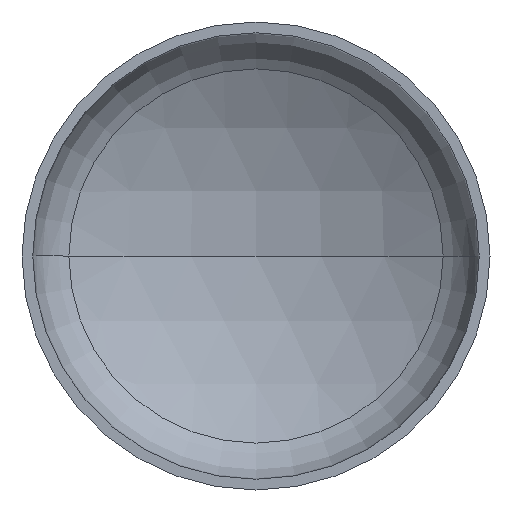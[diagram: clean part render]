
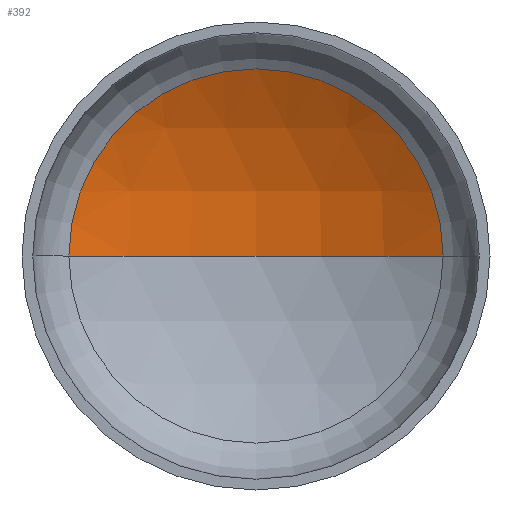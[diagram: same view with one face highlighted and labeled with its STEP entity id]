
A CAD part, front view. The second image highlights one B-rep face of the part: STEP entity #392.
In plain terms, the highlighted spherical face has radius 2720 mm.
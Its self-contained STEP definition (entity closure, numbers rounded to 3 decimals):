
#1 = AXIS2_PLACEMENT_3D ( 'NONE', #298, #70, #127 ) ;
#12 = AXIS2_PLACEMENT_3D ( 'NONE', #45, #286, #289 ) ;
#15 = AXIS2_PLACEMENT_3D ( 'NONE', #194, #360, #106 ) ;
#19 = AXIS2_PLACEMENT_3D ( 'NONE', #128, #124, #126 ) ;
#44 = EDGE_LOOP ( 'NONE', ( #190, #141, #82 ) ) ;
#45 = CARTESIAN_POINT ( 'NONE',  ( 0., -1781.214, 0. ) ) ;
#58 = SPHERICAL_SURFACE ( 'NONE', #1, 2720. ) ;
#70 = DIRECTION ( 'NONE',  ( 0., 0., -1. ) ) ;
#82 = ORIENTED_EDGE ( 'NONE', *, *, #349, .T. ) ;
#83 = VERTEX_POINT ( 'NONE', #156 ) ;
#96 = CIRCLE ( 'NONE', #12, 2720. ) ;
#106 = DIRECTION ( 'NONE',  ( 1., 0., 0. ) ) ;
#124 = DIRECTION ( 'NONE',  ( 0., -1., 0. ) ) ;
#126 = DIRECTION ( 'NONE',  ( 1., 0., 0. ) ) ;
#127 = DIRECTION ( 'NONE',  ( -1., 0., 0. ) ) ;
#128 = CARTESIAN_POINT ( 'NONE',  ( 0., 574.732, 0. ) ) ;
#136 = VERTEX_POINT ( 'NONE', #186 ) ;
#137 = VERTEX_POINT ( 'NONE', #199 ) ;
#141 = ORIENTED_EDGE ( 'NONE', *, *, #353, .T. ) ;
#156 = CARTESIAN_POINT ( 'NONE',  ( -1359.38, 574.732, 0. ) ) ;
#186 = CARTESIAN_POINT ( 'NONE',  ( 0., 938.786, 0. ) ) ;
#190 = ORIENTED_EDGE ( 'NONE', *, *, #354, .F. ) ;
#194 = CARTESIAN_POINT ( 'NONE',  ( 0., -1781.214, 0. ) ) ;
#199 = CARTESIAN_POINT ( 'NONE',  ( 1359.38, 574.732, 0. ) ) ;
#258 = FACE_OUTER_BOUND ( 'NONE', #44, .T. ) ;
#269 = CIRCLE ( 'NONE', #15, 2720. ) ;
#286 = DIRECTION ( 'NONE',  ( 0., 0., -1. ) ) ;
#289 = DIRECTION ( 'NONE',  ( -1., 0., 0. ) ) ;
#298 = CARTESIAN_POINT ( 'NONE',  ( 0., -1781.214, 0. ) ) ;
#349 = EDGE_CURVE ( 'NONE', #137, #83, #390, .T. ) ;
#353 = EDGE_CURVE ( 'NONE', #136, #137, #96, .T. ) ;
#354 = EDGE_CURVE ( 'NONE', #136, #83, #269, .T. ) ;
#360 = DIRECTION ( 'NONE',  ( 0., 0., 1. ) ) ;
#390 = CIRCLE ( 'NONE', #19, 1359.38 ) ;
#392 = ADVANCED_FACE ( 'NONE', ( #258 ), #58, .F. ) ;
